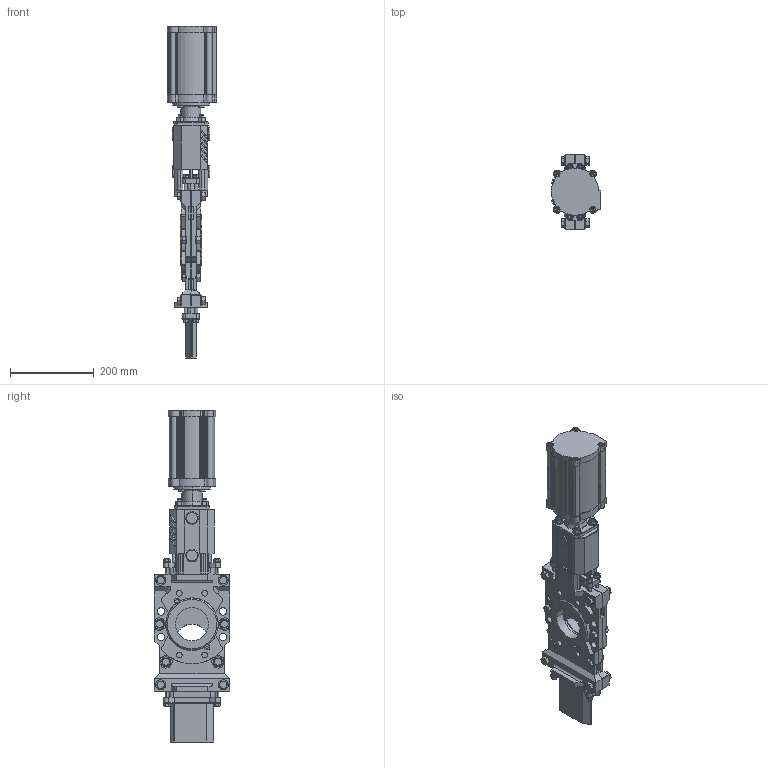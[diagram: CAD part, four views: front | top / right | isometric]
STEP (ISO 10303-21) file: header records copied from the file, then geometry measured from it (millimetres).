
FILE_DESCRIPTION(('STEP AP203'),'1');
FILE_NAME('F:/Alexander/CYLSAM/2D-3D/HG/HG-DN80-EC100.stp','2012-11-28T10:53:49',(' '),(' '),'Spatial InterOp 3D',' ',' ');
FILE_SCHEMA(('CONFIG_CONTROL_DESIGN'));
Length unit declared in the file: millimetre
Products named in the file (5): 1; 2; 3; 4; 5
Bounding box: 118 x 180 x 794.5 mm (x, y, z)
Volume: 3264944.4 mm3; surface area: 786653.8 mm2
Topology: 5 solids, 35 shells, 2490 faces, 6260 edges, 3981 vertices
Faces by surface type: plane 929, cylinder 878, cone 584, torus 99
Entity records: 79890 total; most frequent: CARTESIAN_POINT 18994, DIRECTION 13242, ORIENTED_EDGE 12456, EDGE_CURVE 6228, AXIS2_PLACEMENT_3D 5303, VERTEX_POINT 3981, EDGE_LOOP 2813, CIRCLE 2784
